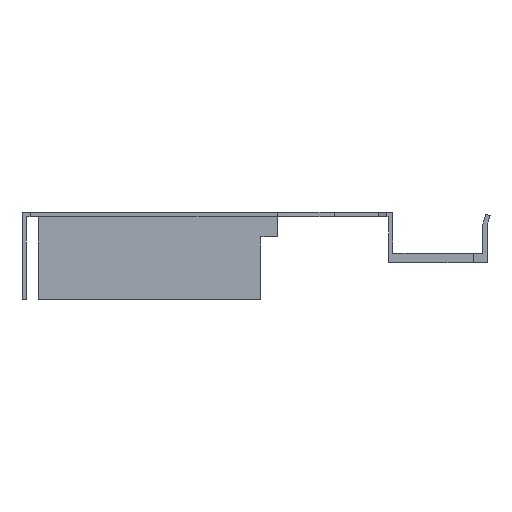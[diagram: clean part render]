
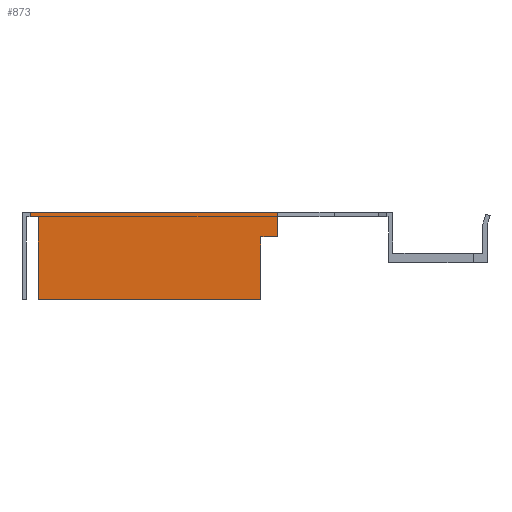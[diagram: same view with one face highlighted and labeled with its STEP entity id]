
A CAD part, left-side view. The second image highlights one B-rep face of the part: STEP entity #873.
In plain terms, the highlighted planar face has unit normal (-1, 0, 0).
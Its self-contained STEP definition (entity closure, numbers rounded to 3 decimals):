
#28 = CARTESIAN_POINT ( 'NONE',  ( -863., 21.2, 7.5 ) ) ;
#29 = CARTESIAN_POINT ( 'NONE',  ( -863., 66.5, 7.5 ) ) ;
#57 = CARTESIAN_POINT ( 'NONE',  ( -863., 66.5, 6.7 ) ) ;
#62 = CARTESIAN_POINT ( 'NONE',  ( -863., 65., 6.7 ) ) ;
#64 = CARTESIAN_POINT ( 'NONE',  ( -863., 24.2, -8.5 ) ) ;
#66 = CARTESIAN_POINT ( 'NONE',  ( -863., 65., -8.5 ) ) ;
#69 = CARTESIAN_POINT ( 'NONE',  ( -863., 21.2, 3. ) ) ;
#80 = CARTESIAN_POINT ( 'NONE',  ( -863., 24.2, 3. ) ) ;
#104 = VERTEX_POINT ( 'NONE', #80 ) ;
#115 = VERTEX_POINT ( 'NONE', #69 ) ;
#118 = VERTEX_POINT ( 'NONE', #66 ) ;
#120 = VERTEX_POINT ( 'NONE', #64 ) ;
#122 = VERTEX_POINT ( 'NONE', #62 ) ;
#127 = VERTEX_POINT ( 'NONE', #57 ) ;
#155 = VERTEX_POINT ( 'NONE', #29 ) ;
#156 = VERTEX_POINT ( 'NONE', #28 ) ;
#204 = PLANE ( 'NONE',  #1364 ) ;
#207 = CARTESIAN_POINT ( 'NONE',  ( -863., -16.5, 0. ) ) ;
#213 = DIRECTION ( 'NONE',  ( -1., 0., 0. ) ) ;
#214 = DIRECTION ( 'NONE',  ( 0., 0., 1. ) ) ;
#391 = CARTESIAN_POINT ( 'NONE',  ( -863., 0.8, 6.7 ) ) ;
#396 = DIRECTION ( 'NONE',  ( 0., 1., 0. ) ) ;
#412 = CARTESIAN_POINT ( 'NONE',  ( -863., 21.2, 0. ) ) ;
#415 = DIRECTION ( 'NONE',  ( 0., 0., -1. ) ) ;
#420 = CARTESIAN_POINT ( 'NONE',  ( -863., 66.5, 6.7 ) ) ;
#421 = DIRECTION ( 'NONE',  ( 0., 0., 1. ) ) ;
#508 = CARTESIAN_POINT ( 'NONE',  ( -863., 65., 7.5 ) ) ;
#509 = DIRECTION ( 'NONE',  ( 0., 0., -1. ) ) ;
#525 = CARTESIAN_POINT ( 'NONE',  ( -863., 0., 7.5 ) ) ;
#526 = DIRECTION ( 'NONE',  ( 0., -1., 0. ) ) ;
#529 = DIRECTION ( 'NONE',  ( 0., -1., 0. ) ) ;
#532 = CARTESIAN_POINT ( 'NONE',  ( -863., 24.2, 3. ) ) ;
#572 = FACE_OUTER_BOUND ( 'NONE', #967, .T. ) ;
#647 = LINE ( 'NONE', #391, #654 ) ;
#654 = VECTOR ( 'NONE', #396, 1000. ) ;
#659 = LINE ( 'NONE', #412, #671 ) ;
#671 = VECTOR ( 'NONE', #415, 1000. ) ;
#677 = LINE ( 'NONE', #420, #678 ) ;
#678 = VECTOR ( 'NONE', #421, 1000. ) ;
#756 = VECTOR ( 'NONE', #526, 1000. ) ;
#757 = LINE ( 'NONE', #508, #758 ) ;
#758 = VECTOR ( 'NONE', #509, 1000. ) ;
#760 = LINE ( 'NONE', #525, #756 ) ;
#764 = LINE ( 'NONE', #532, #789 ) ;
#789 = VECTOR ( 'NONE', #529, 1000. ) ;
#859 = LINE ( 'NONE', #1187, #1560 ) ;
#873 = ADVANCED_FACE ( 'NONE', ( #572 ), #204, .T. ) ;
#926 = LINE ( 'NONE', #1211, #927 ) ;
#927 = VECTOR ( 'NONE', #1212, 1000. ) ;
#967 = EDGE_LOOP ( 'NONE', ( #1505, #1504, #1503, #1502, #1501, #1513, #1114, #1118 ) ) ;
#1114 = ORIENTED_EDGE ( 'NONE', *, *, #1308, .F. ) ;
#1118 = ORIENTED_EDGE ( 'NONE', *, *, #1406, .F. ) ;
#1187 = CARTESIAN_POINT ( 'NONE',  ( -863., 65., -8.5 ) ) ;
#1188 = DIRECTION ( 'NONE',  ( 0., -1., 0. ) ) ;
#1211 = CARTESIAN_POINT ( 'NONE',  ( -863., 24.2, -8.5 ) ) ;
#1212 = DIRECTION ( 'NONE',  ( 0., 0., 1. ) ) ;
#1299 = EDGE_CURVE ( 'NONE', #122, #127, #647, .T. ) ;
#1308 = EDGE_CURVE ( 'NONE', #156, #115, #659, .T. ) ;
#1311 = EDGE_CURVE ( 'NONE', #127, #155, #677, .T. ) ;
#1353 = EDGE_CURVE ( 'NONE', #122, #118, #757, .T. ) ;
#1364 = AXIS2_PLACEMENT_3D ( 'NONE', #207, #213, #214 ) ;
#1406 = EDGE_CURVE ( 'NONE', #155, #156, #760, .T. ) ;
#1415 = EDGE_CURVE ( 'NONE', #104, #115, #764, .T. ) ;
#1474 = EDGE_CURVE ( 'NONE', #118, #120, #859, .T. ) ;
#1485 = EDGE_CURVE ( 'NONE', #120, #104, #926, .T. ) ;
#1501 = ORIENTED_EDGE ( 'NONE', *, *, #1485, .T. ) ;
#1502 = ORIENTED_EDGE ( 'NONE', *, *, #1474, .T. ) ;
#1503 = ORIENTED_EDGE ( 'NONE', *, *, #1353, .T. ) ;
#1504 = ORIENTED_EDGE ( 'NONE', *, *, #1299, .F. ) ;
#1505 = ORIENTED_EDGE ( 'NONE', *, *, #1311, .F. ) ;
#1513 = ORIENTED_EDGE ( 'NONE', *, *, #1415, .T. ) ;
#1560 = VECTOR ( 'NONE', #1188, 1000. ) ;
